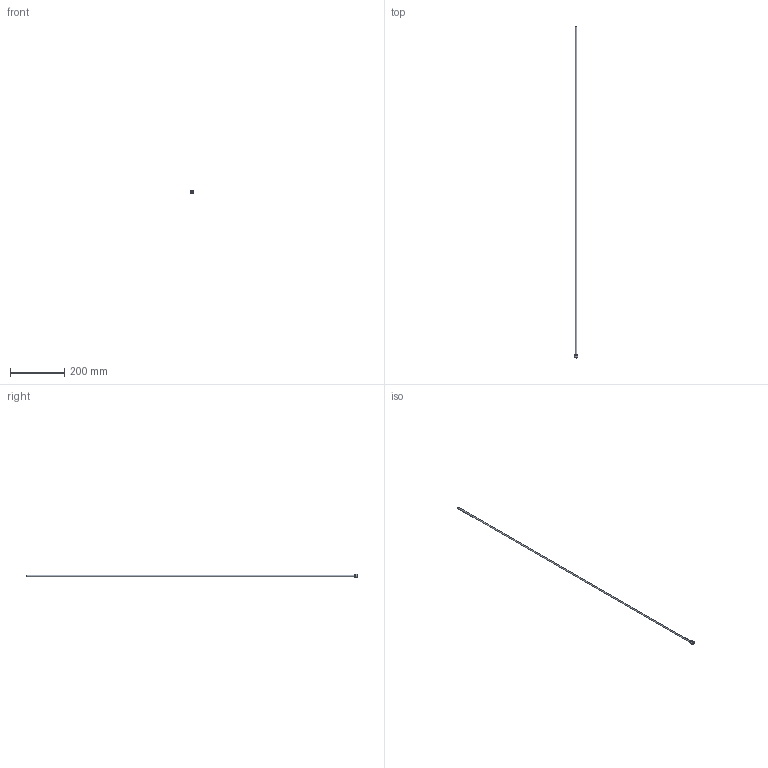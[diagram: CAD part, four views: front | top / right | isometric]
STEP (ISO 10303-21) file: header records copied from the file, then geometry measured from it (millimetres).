
FILE_DESCRIPTION(/* description */ (''),/* implementation_level */ '2;1');
FILE_NAME(/* name */ 'C:/Users/drich/Desktop/PT14-250-48 v1.step',/* time_stamp */ '2019-12-27T15:09:22-06:00',/* author */ (''),/* organization */ (''),/* preprocessor_version */ 'ST-DEVELOPER v18',/* originating_system */ 'Autodesk Translation Framework v8.12.0.6',/* authorisation */ '');
FILE_SCHEMA (('AUTOMOTIVE_DESIGN { 1 0 10303 214 3 1 1 }'));
Length unit declared in the file: inch
Products named in the file (1): PT14-250-48
Bounding box: 13.03 x 1219.2 x 13.03 mm (x, y, z)
Volume: 6956.2 mm3; surface area: 47129.1 mm2
Topology: 1 solids, 1 shells, 19 faces, 48 edges, 34 vertices
Faces by surface type: plane 11, cylinder 4, torus 2, cone 2
Full cylindrical faces by diameter (mm): 5.842 x1, 6.35 x1, 8.712 x1, 13.032 x1
Entity records: 633 total; most frequent: DIRECTION 112, CARTESIAN_POINT 102, ORIENTED_EDGE 96, EDGE_CURVE 48, AXIS2_PLACEMENT_3D 44, VERTEX_POINT 34, CIRCLE 24, EDGE_LOOP 24
